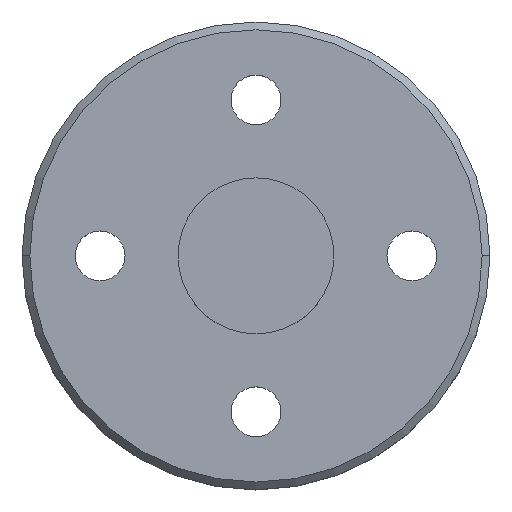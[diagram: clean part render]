
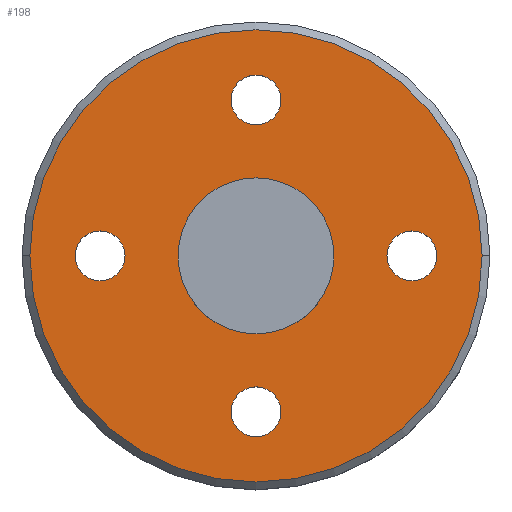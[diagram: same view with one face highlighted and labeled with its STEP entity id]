
A CAD part, top view. The second image highlights one B-rep face of the part: STEP entity #198.
In plain terms, the highlighted planar face has unit normal (0, 0, 1).
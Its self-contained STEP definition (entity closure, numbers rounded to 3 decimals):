
#48=AXIS2_PLACEMENT_3D('Circle Axis2P3D',#46,#47,$) ;
#74=AXIS2_PLACEMENT_3D('Circle Axis2P3D',#72,#73,$) ;
#102=AXIS2_PLACEMENT_3D('Plane Axis2P3D',#99,#100,#101) ;
#106=AXIS2_PLACEMENT_3D('Circle Axis2P3D',#104,#105,$) ;
#115=AXIS2_PLACEMENT_3D('Circle Axis2P3D',#113,#114,$) ;
#128=AXIS2_PLACEMENT_3D('Circle Axis2P3D',#126,#127,$) ;
#137=AXIS2_PLACEMENT_3D('Circle Axis2P3D',#135,#136,$) ;
#146=AXIS2_PLACEMENT_3D('Circle Axis2P3D',#144,#145,$) ;
#155=AXIS2_PLACEMENT_3D('Circle Axis2P3D',#153,#154,$) ;
#164=AXIS2_PLACEMENT_3D('Circle Axis2P3D',#162,#163,$) ;
#173=AXIS2_PLACEMENT_3D('Circle Axis2P3D',#171,#172,$) ;
#182=AXIS2_PLACEMENT_3D('Circle Axis2P3D',#180,#181,$) ;
#191=AXIS2_PLACEMENT_3D('Circle Axis2P3D',#189,#190,$) ;
#41=CARTESIAN_POINT('Vertex',(5.,0.,7.)) ;
#46=CARTESIAN_POINT('Axis2P3D Location',(0.,0.,7.)) ;
#50=CARTESIAN_POINT('Vertex',(-5.,0.,7.)) ;
#72=CARTESIAN_POINT('Axis2P3D Location',(0.,0.,7.)) ;
#99=CARTESIAN_POINT('Axis2P3D Location',(0.,0.,7.)) ;
#104=CARTESIAN_POINT('Axis2P3D Location',(0.,0.,7.)) ;
#108=CARTESIAN_POINT('Vertex',(-14.5,0.,7.)) ;
#110=CARTESIAN_POINT('Vertex',(14.5,0.,7.)) ;
#113=CARTESIAN_POINT('Axis2P3D Location',(0.,0.,7.)) ;
#126=CARTESIAN_POINT('Axis2P3D Location',(-10.,0.,7.)) ;
#130=CARTESIAN_POINT('Vertex',(-11.6,0.,7.)) ;
#132=CARTESIAN_POINT('Vertex',(-8.4,0.,7.)) ;
#135=CARTESIAN_POINT('Axis2P3D Location',(-10.,0.,7.)) ;
#144=CARTESIAN_POINT('Axis2P3D Location',(10.,0.,7.)) ;
#148=CARTESIAN_POINT('Vertex',(8.4,0.,7.)) ;
#150=CARTESIAN_POINT('Vertex',(11.6,0.,7.)) ;
#153=CARTESIAN_POINT('Axis2P3D Location',(10.,0.,7.)) ;
#162=CARTESIAN_POINT('Axis2P3D Location',(0.,10.,7.)) ;
#166=CARTESIAN_POINT('Vertex',(-1.6,10.,7.)) ;
#168=CARTESIAN_POINT('Vertex',(1.6,10.,7.)) ;
#171=CARTESIAN_POINT('Axis2P3D Location',(0.,10.,7.)) ;
#180=CARTESIAN_POINT('Axis2P3D Location',(0.,-10.,7.)) ;
#184=CARTESIAN_POINT('Vertex',(-1.6,-10.,7.)) ;
#186=CARTESIAN_POINT('Vertex',(1.6,-10.,7.)) ;
#189=CARTESIAN_POINT('Axis2P3D Location',(0.,-10.,7.)) ;
#47=DIRECTION('Axis2P3D Direction',(0.,0.,1.)) ;
#73=DIRECTION('Axis2P3D Direction',(0.,0.,1.)) ;
#100=DIRECTION('Axis2P3D Direction',(0.,0.,1.)) ;
#101=DIRECTION('Axis2P3D XDirection',(1.,0.,0.)) ;
#105=DIRECTION('Axis2P3D Direction',(0.,0.,1.)) ;
#114=DIRECTION('Axis2P3D Direction',(0.,0.,1.)) ;
#127=DIRECTION('Axis2P3D Direction',(0.,0.,1.)) ;
#136=DIRECTION('Axis2P3D Direction',(0.,0.,1.)) ;
#145=DIRECTION('Axis2P3D Direction',(0.,0.,1.)) ;
#154=DIRECTION('Axis2P3D Direction',(0.,0.,1.)) ;
#163=DIRECTION('Axis2P3D Direction',(0.,0.,1.)) ;
#172=DIRECTION('Axis2P3D Direction',(0.,0.,1.)) ;
#181=DIRECTION('Axis2P3D Direction',(0.,0.,1.)) ;
#190=DIRECTION('Axis2P3D Direction',(0.,0.,1.)) ;
#119=ORIENTED_EDGE('',*,*,#112,.T.) ;
#120=ORIENTED_EDGE('',*,*,#117,.T.) ;
#123=ORIENTED_EDGE('',*,*,#52,.F.) ;
#124=ORIENTED_EDGE('',*,*,#76,.F.) ;
#141=ORIENTED_EDGE('',*,*,#134,.F.) ;
#142=ORIENTED_EDGE('',*,*,#139,.F.) ;
#159=ORIENTED_EDGE('',*,*,#152,.F.) ;
#160=ORIENTED_EDGE('',*,*,#157,.F.) ;
#177=ORIENTED_EDGE('',*,*,#170,.F.) ;
#178=ORIENTED_EDGE('',*,*,#175,.F.) ;
#195=ORIENTED_EDGE('',*,*,#188,.F.) ;
#196=ORIENTED_EDGE('',*,*,#193,.F.) ;
#125=FACE_BOUND('',#122,.T.) ;
#143=FACE_BOUND('',#140,.T.) ;
#161=FACE_BOUND('',#158,.T.) ;
#179=FACE_BOUND('',#176,.T.) ;
#197=FACE_BOUND('',#194,.T.) ;
#198=ADVANCED_FACE('\X2\96F64EF651E04F554F53\X0\',(#121,#125,#143,#161,#179,#197),#103,.T.) ;
#49=CIRCLE('generated circle',#48,5.) ;
#75=CIRCLE('generated circle',#74,5.) ;
#107=CIRCLE('generated circle',#106,14.5) ;
#116=CIRCLE('generated circle',#115,14.5) ;
#129=CIRCLE('generated circle',#128,1.6) ;
#138=CIRCLE('generated circle',#137,1.6) ;
#147=CIRCLE('generated circle',#146,1.6) ;
#156=CIRCLE('generated circle',#155,1.6) ;
#165=CIRCLE('generated circle',#164,1.6) ;
#174=CIRCLE('generated circle',#173,1.6) ;
#183=CIRCLE('generated circle',#182,1.6) ;
#192=CIRCLE('generated circle',#191,1.6) ;
#52=EDGE_CURVE('',#42,#51,#49,.T.) ;
#76=EDGE_CURVE('',#51,#42,#75,.T.) ;
#112=EDGE_CURVE('',#109,#111,#107,.T.) ;
#117=EDGE_CURVE('',#111,#109,#116,.T.) ;
#134=EDGE_CURVE('',#131,#133,#129,.T.) ;
#139=EDGE_CURVE('',#133,#131,#138,.T.) ;
#152=EDGE_CURVE('',#149,#151,#147,.T.) ;
#157=EDGE_CURVE('',#151,#149,#156,.T.) ;
#170=EDGE_CURVE('',#167,#169,#165,.T.) ;
#175=EDGE_CURVE('',#169,#167,#174,.T.) ;
#188=EDGE_CURVE('',#185,#187,#183,.T.) ;
#193=EDGE_CURVE('',#187,#185,#192,.T.) ;
#118=EDGE_LOOP('',(#119,#120)) ;
#122=EDGE_LOOP('',(#123,#124)) ;
#140=EDGE_LOOP('',(#141,#142)) ;
#158=EDGE_LOOP('',(#159,#160)) ;
#176=EDGE_LOOP('',(#177,#178)) ;
#194=EDGE_LOOP('',(#195,#196)) ;
#121=FACE_OUTER_BOUND('',#118,.T.) ;
#103=PLANE('',#102) ;
#42=VERTEX_POINT('',#41) ;
#51=VERTEX_POINT('',#50) ;
#109=VERTEX_POINT('',#108) ;
#111=VERTEX_POINT('',#110) ;
#131=VERTEX_POINT('',#130) ;
#133=VERTEX_POINT('',#132) ;
#149=VERTEX_POINT('',#148) ;
#151=VERTEX_POINT('',#150) ;
#167=VERTEX_POINT('',#166) ;
#169=VERTEX_POINT('',#168) ;
#185=VERTEX_POINT('',#184) ;
#187=VERTEX_POINT('',#186) ;
